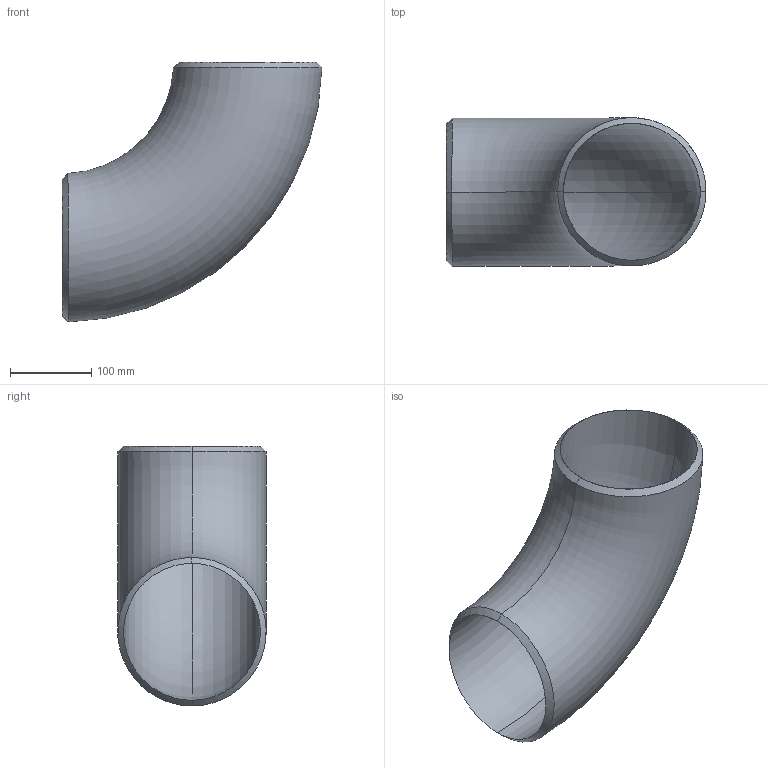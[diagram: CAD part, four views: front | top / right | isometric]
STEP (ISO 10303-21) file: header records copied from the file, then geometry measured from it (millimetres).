
FILE_DESCRIPTION (( 'STEP AP203' ), '1' );
FILE_NAME ('3D_R2651_6X40S_173421250_173425260.STEP', '2024-08-22T09:11:33', ( '' ), ( '' ), 'SwSTEP 2.0', 'SolidWorks 2024', '' );
FILE_SCHEMA (( 'CONFIG_CONTROL_DESIGN' ));
Length unit declared in the file: millimetre
Products named in the file (1): 3D_R2651_6X40S_173421250_173425260
Bounding box: 319.78 x 182.35 x 319.76 mm (x, y, z)
Volume: 1371707.4 mm3; surface area: 398011.1 mm2
Topology: 1 solids, 1 shells, 10 faces, 24 edges, 15 vertices
Faces by surface type: bspline 4, torus 4, plane 2
Entity records: 3743 total; most frequent: CARTESIAN_POINT 3464, ORIENTED_EDGE 48, DIRECTION 30, EDGE_CURVE 24, B_SPLINE_CURVE_WITH_KNOTS 16, VERTEX_POINT 15, AXIS2_PLACEMENT_3D 15, EDGE_LOOP 11
